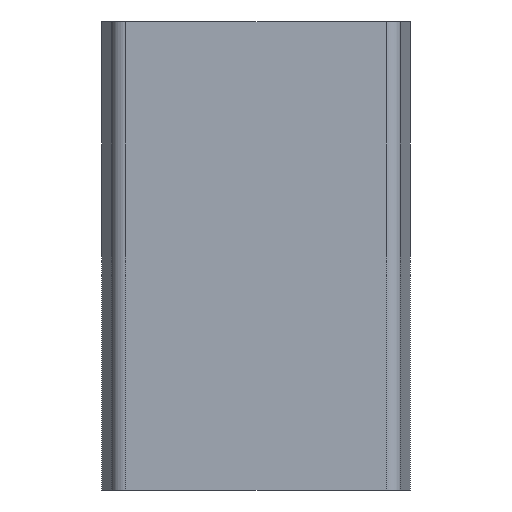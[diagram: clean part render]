
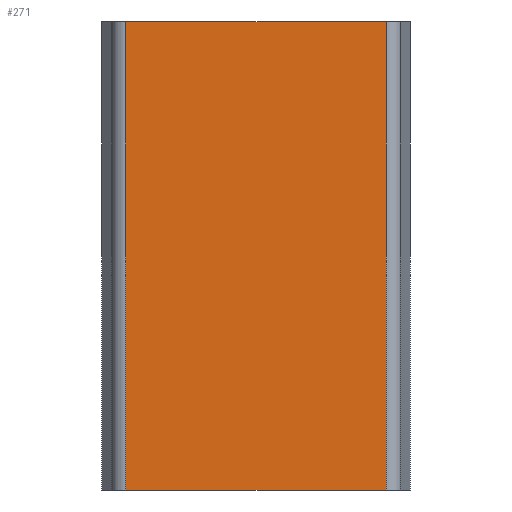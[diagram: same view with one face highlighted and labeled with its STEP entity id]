
A CAD part, front view. The second image highlights one B-rep face of the part: STEP entity #271.
In plain terms, the highlighted planar face has unit normal (0, -1, 0).
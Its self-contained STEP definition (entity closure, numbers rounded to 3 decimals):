
#17 = EDGE_CURVE ( 'NONE', #519, #83, #682, .T. ) ;
#25 = EDGE_CURVE ( 'NONE', #385, #83, #690, .T. ) ;
#46 = ORIENTED_EDGE ( 'NONE', *, *, #17, .F. ) ;
#83 = VERTEX_POINT ( 'NONE', #1107 ) ;
#98 = VERTEX_POINT ( 'NONE', #263 ) ;
#131 = ORIENTED_EDGE ( 'NONE', *, *, #25, .T. ) ;
#145 = EDGE_LOOP ( 'NONE', ( #46, #465, #476, #131 ) ) ;
#235 = EDGE_CURVE ( 'NONE', #98, #385, #1001, .T. ) ;
#263 = CARTESIAN_POINT ( 'NONE',  ( -27.884, -56.95, -100. ) ) ;
#271 = ADVANCED_FACE ( 'NONE', ( #1011 ), #1012, .T. ) ;
#367 = EDGE_CURVE ( 'NONE', #98, #519, #1062, .T. ) ;
#385 = VERTEX_POINT ( 'NONE', #1072 ) ;
#465 = ORIENTED_EDGE ( 'NONE', *, *, #367, .F. ) ;
#476 = ORIENTED_EDGE ( 'NONE', *, *, #235, .T. ) ;
#519 = VERTEX_POINT ( 'NONE', #730 ) ;
#682 = LINE ( 'NONE', #683, #684 ) ;
#683 = CARTESIAN_POINT ( 'NONE',  ( -27.884, -56.95, 0. ) ) ;
#684 = VECTOR ( 'NONE', #685, 1000. ) ;
#685 = DIRECTION ( 'NONE',  ( 1., 0., 0. ) ) ;
#690 = LINE ( 'NONE', #691, #692 ) ;
#691 = CARTESIAN_POINT ( 'NONE',  ( 27.884, -56.95, -100. ) ) ;
#692 = VECTOR ( 'NONE', #693, 1000. ) ;
#693 = DIRECTION ( 'NONE',  ( 0., 0., 1. ) ) ;
#730 = CARTESIAN_POINT ( 'NONE',  ( -27.884, -56.95, 0. ) ) ;
#1001 = LINE ( 'NONE', #1002, #1003 ) ;
#1002 = CARTESIAN_POINT ( 'NONE',  ( -27.884, -56.95, -100. ) ) ;
#1003 = VECTOR ( 'NONE', #1004, 1000. ) ;
#1004 = DIRECTION ( 'NONE',  ( 1., 0., 0. ) ) ;
#1011 = FACE_OUTER_BOUND ( 'NONE', #145, .T. ) ;
#1012 = PLANE ( 'NONE',  #1013 ) ;
#1013 = AXIS2_PLACEMENT_3D ( 'NONE', #1014, #1015, #1016 ) ;
#1014 = CARTESIAN_POINT ( 'NONE',  ( -27.884, -56.95, -100. ) ) ;
#1015 = DIRECTION ( 'NONE',  ( 0., -1., 0. ) ) ;
#1016 = DIRECTION ( 'NONE',  ( 1., 0., 0. ) ) ;
#1062 = LINE ( 'NONE', #1063, #1064 ) ;
#1063 = CARTESIAN_POINT ( 'NONE',  ( -27.884, -56.95, -100. ) ) ;
#1064 = VECTOR ( 'NONE', #1065, 1000. ) ;
#1065 = DIRECTION ( 'NONE',  ( 0., 0., 1. ) ) ;
#1072 = CARTESIAN_POINT ( 'NONE',  ( 27.884, -56.95, -100. ) ) ;
#1107 = CARTESIAN_POINT ( 'NONE',  ( 27.884, -56.95, 0. ) ) ;
